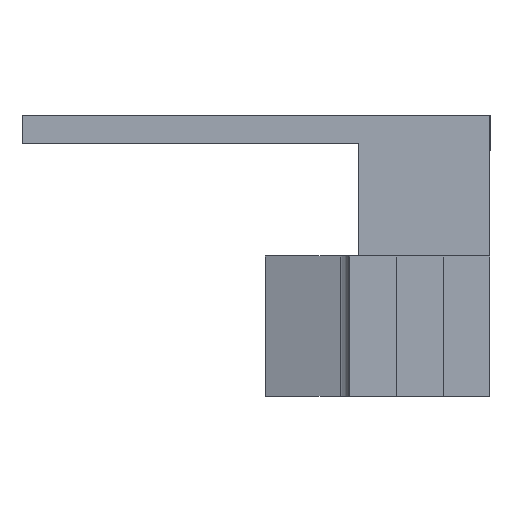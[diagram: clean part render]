
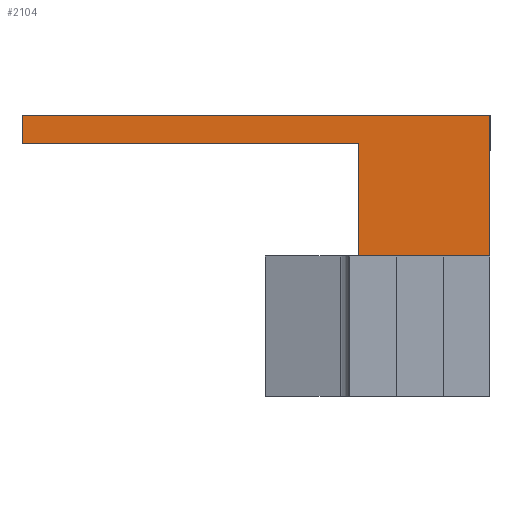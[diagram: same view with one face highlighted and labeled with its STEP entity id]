
A CAD part, left-side view. The second image highlights one B-rep face of the part: STEP entity #2104.
In plain terms, the highlighted planar face has unit normal (-1, 0, 0).
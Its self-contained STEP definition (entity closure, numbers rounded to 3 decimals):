
#305 = VECTOR ( 'NONE', #9794, 1000. ) ;
#352 = PLANE ( 'NONE',  #4679 ) ;
#700 = CARTESIAN_POINT ( 'NONE',  ( 33.186, -6., 19.5 ) ) ;
#887 = ORIENTED_EDGE ( 'NONE', *, *, #5093, .F. ) ;
#1040 = LINE ( 'NONE', #5518, #6443 ) ;
#1381 = LINE ( 'NONE', #8985, #1449 ) ;
#1416 = DIRECTION ( 'NONE',  ( 0., 0., -1. ) ) ;
#1449 = VECTOR ( 'NONE', #5051, 1000. ) ;
#1693 = DIRECTION ( 'NONE',  ( 0., -1., 0. ) ) ;
#1983 = VECTOR ( 'NONE', #9853, 1000. ) ;
#2006 = VERTEX_POINT ( 'NONE', #8872 ) ;
#2019 = VERTEX_POINT ( 'NONE', #8225 ) ;
#2104 = ADVANCED_FACE ( 'NONE', ( #4170 ), #352, .T. ) ;
#2186 = LINE ( 'NONE', #6221, #1983 ) ;
#2225 = LINE ( 'NONE', #8937, #305 ) ;
#2427 = DIRECTION ( 'NONE',  ( 0., -1., 0. ) ) ;
#3058 = ORIENTED_EDGE ( 'NONE', *, *, #3059, .T. ) ;
#3059 = EDGE_CURVE ( 'NONE', #8657, #3659, #4534, .T. ) ;
#3514 = CARTESIAN_POINT ( 'NONE',  ( 33.186, -20., 19.5 ) ) ;
#3659 = VERTEX_POINT ( 'NONE', #9650 ) ;
#3695 = EDGE_CURVE ( 'NONE', #5105, #2019, #2186, .T. ) ;
#3987 = ORIENTED_EDGE ( 'NONE', *, *, #8807, .T. ) ;
#4170 = FACE_OUTER_BOUND ( 'NONE', #5375, .T. ) ;
#4365 = VECTOR ( 'NONE', #2427, 1000. ) ;
#4534 = LINE ( 'NONE', #8372, #8655 ) ;
#4636 = DIRECTION ( 'NONE',  ( -1., 0., 0. ) ) ;
#4679 = AXIS2_PLACEMENT_3D ( 'NONE', #5196, #4636, #5246 ) ;
#5051 = DIRECTION ( 'NONE',  ( 0., 0., -1. ) ) ;
#5093 = EDGE_CURVE ( 'NONE', #2019, #6770, #1381, .T. ) ;
#5105 = VERTEX_POINT ( 'NONE', #6610 ) ;
#5196 = CARTESIAN_POINT ( 'NONE',  ( 33.186, -6., 7.5 ) ) ;
#5246 = DIRECTION ( 'NONE',  ( 0., 0., 1. ) ) ;
#5375 = EDGE_LOOP ( 'NONE', ( #887, #5579, #6411, #7322, #3058, #3987 ) ) ;
#5518 = CARTESIAN_POINT ( 'NONE',  ( 33.186, -6., 7.5 ) ) ;
#5579 = ORIENTED_EDGE ( 'NONE', *, *, #3695, .F. ) ;
#6186 = EDGE_CURVE ( 'NONE', #5105, #2006, #2225, .T. ) ;
#6221 = CARTESIAN_POINT ( 'NONE',  ( 33.186, -20., 22.5 ) ) ;
#6411 = ORIENTED_EDGE ( 'NONE', *, *, #6186, .T. ) ;
#6443 = VECTOR ( 'NONE', #1693, 1000. ) ;
#6610 = CARTESIAN_POINT ( 'NONE',  ( 33.186, 30., 22.5 ) ) ;
#6770 = VERTEX_POINT ( 'NONE', #8760 ) ;
#7322 = ORIENTED_EDGE ( 'NONE', *, *, #9191, .T. ) ;
#8225 = CARTESIAN_POINT ( 'NONE',  ( 33.186, -20., 22.5 ) ) ;
#8372 = CARTESIAN_POINT ( 'NONE',  ( 33.186, -6., 7.5 ) ) ;
#8655 = VECTOR ( 'NONE', #1416, 1000. ) ;
#8657 = VERTEX_POINT ( 'NONE', #700 ) ;
#8760 = CARTESIAN_POINT ( 'NONE',  ( 33.186, -20., 7.5 ) ) ;
#8807 = EDGE_CURVE ( 'NONE', #3659, #6770, #1040, .T. ) ;
#8872 = CARTESIAN_POINT ( 'NONE',  ( 33.186, 30., 19.5 ) ) ;
#8937 = CARTESIAN_POINT ( 'NONE',  ( 33.186, 30., 22.5 ) ) ;
#8985 = CARTESIAN_POINT ( 'NONE',  ( 33.186, -20., 7.5 ) ) ;
#9191 = EDGE_CURVE ( 'NONE', #2006, #8657, #9437, .T. ) ;
#9437 = LINE ( 'NONE', #3514, #4365 ) ;
#9650 = CARTESIAN_POINT ( 'NONE',  ( 33.186, -6., 7.5 ) ) ;
#9794 = DIRECTION ( 'NONE',  ( 0., 0., -1. ) ) ;
#9853 = DIRECTION ( 'NONE',  ( 0., -1., 0. ) ) ;
